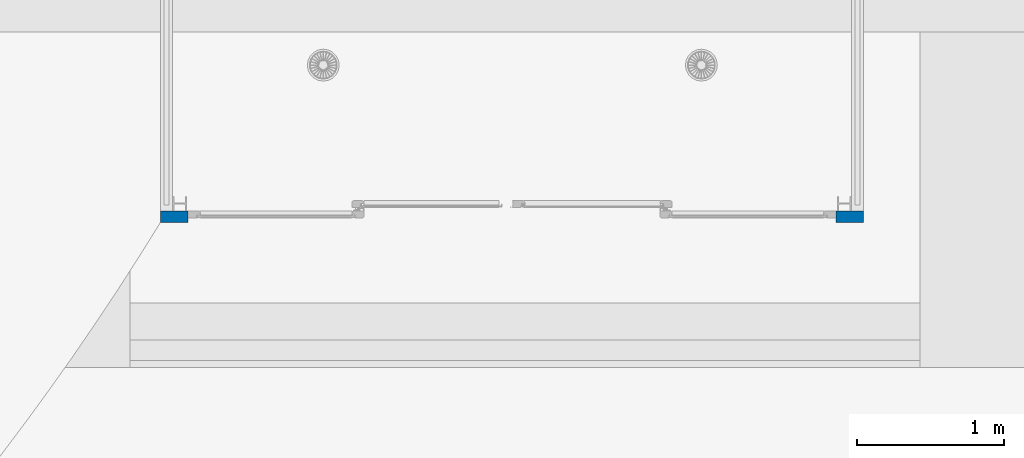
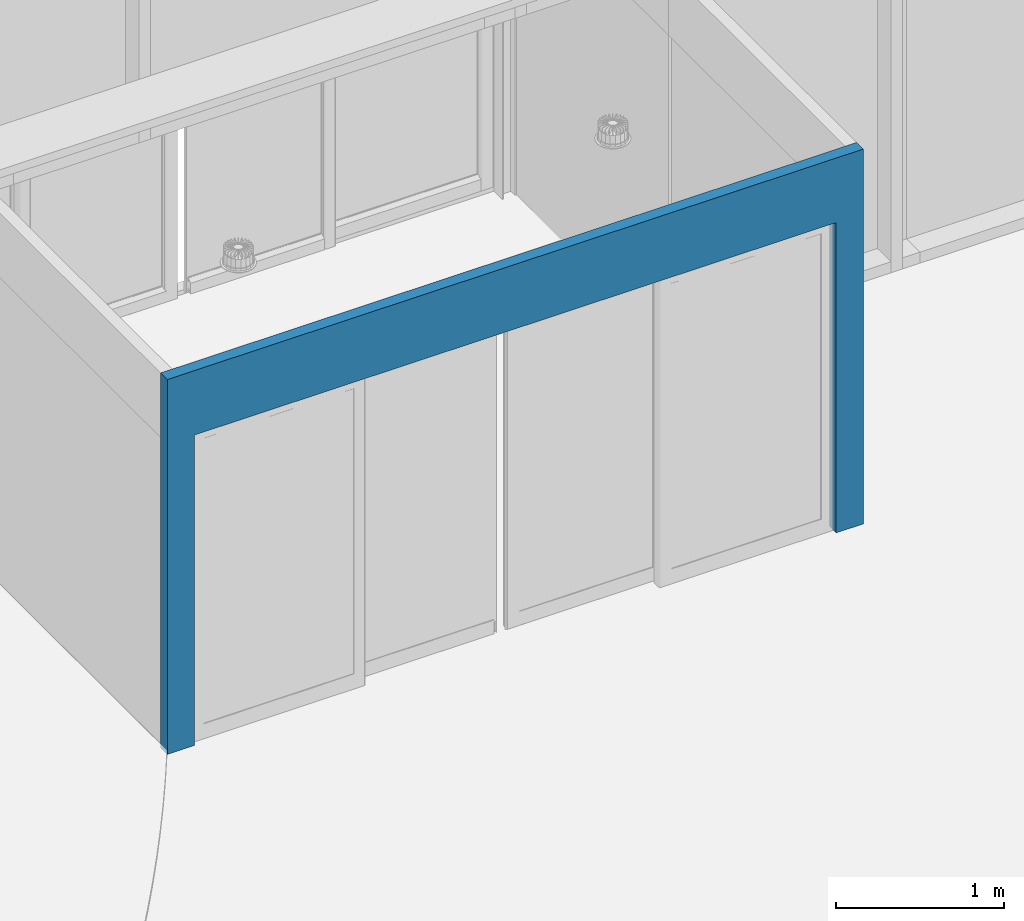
# One storey, part 209 of 302: 1 wall, 1 opening.
"""IFC2X3 building model written with IfcOpenShell, lengths in metres."""

from ifc_helpers import new_model, entity, si_unit, converted_unit, derived_unit, direction, frame, frame_2d, origin, place, context, subcontext, project, spatial, rectangle, extrude, material, layer, layer_set, layer_usage, type_object, element, save


model = new_model("IFC2X3")

# Units and contexts
model_context = context("Model", 3, precision=1e-05, world=origin(), true_north=direction((6.12303176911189e-17, 1.0)))
body_context = subcontext(model_context, "Body", "Model", "MODEL_VIEW")
ifc_project = project(units=[si_unit("LENGTHUNIT", "METRE"), si_unit("AREAUNIT", "SQUARE_METRE"), si_unit("VOLUMEUNIT", "CUBIC_METRE"), converted_unit("PLANEANGLEUNIT", "DEGREE", entity("IfcRatioMeasure", 0.0174532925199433), si_unit("PLANEANGLEUNIT", "RADIAN"), dimensions=[0, 0, 0, 0, 0, 0, 0]), si_unit("MASSUNIT", "GRAM", prefix="KILO"), derived_unit("MASSDENSITYUNIT", [(si_unit("MASSUNIT", "GRAM", prefix="KILO"), 1), (si_unit("LENGTHUNIT", "METRE"), -3)]), derived_unit("MOMENTOFINERTIAUNIT", [(si_unit("LENGTHUNIT", "METRE"), 4)]), si_unit("TIMEUNIT", "SECOND"), si_unit("FREQUENCYUNIT", "HERTZ"), si_unit("THERMODYNAMICTEMPERATUREUNIT", "DEGREE_CELSIUS"), derived_unit("THERMALTRANSMITTANCEUNIT", [(si_unit("MASSUNIT", "GRAM", prefix="KILO"), 1), (si_unit("THERMODYNAMICTEMPERATUREUNIT", "KELVIN"), -1), (si_unit("TIMEUNIT", "SECOND"), -3)]), derived_unit("VOLUMETRICFLOWRATEUNIT", [(si_unit("LENGTHUNIT", "METRE"), 3), (si_unit("TIMEUNIT", "SECOND"), -1)]), si_unit("ELECTRICCURRENTUNIT", "AMPERE"), si_unit("ELECTRICVOLTAGEUNIT", "VOLT"), si_unit("POWERUNIT", "WATT"), si_unit("FORCEUNIT", "NEWTON", prefix="KILO"), si_unit("ILLUMINANCEUNIT", "LUX"), si_unit("LUMINOUSFLUXUNIT", "LUMEN"), si_unit("LUMINOUSINTENSITYUNIT", "CANDELA"), derived_unit("USERDEFINED", [(si_unit("MASSUNIT", "GRAM", prefix="KILO"), -1), (si_unit("LENGTHUNIT", "METRE"), -2), (si_unit("TIMEUNIT", "SECOND"), 3), (si_unit("LUMINOUSFLUXUNIT", "LUMEN"), 1)]), derived_unit("LINEARVELOCITYUNIT", [(si_unit("LENGTHUNIT", "METRE"), 1), (si_unit("TIMEUNIT", "SECOND"), -1)]), si_unit("PRESSUREUNIT", "PASCAL"), derived_unit("USERDEFINED", [(si_unit("LENGTHUNIT", "METRE"), -2), (si_unit("MASSUNIT", "GRAM", prefix="KILO"), 1), (si_unit("TIMEUNIT", "SECOND"), -2)]), derived_unit("LINEARFORCEUNIT", [(si_unit("MASSUNIT", "GRAM", prefix="KILO"), 1), (si_unit("LENGTHUNIT", "METRE"), 1), (si_unit("TIMEUNIT", "SECOND"), -2), (si_unit("LENGTHUNIT", "METRE"), -1)]), derived_unit("PLANARFORCEUNIT", [(si_unit("MASSUNIT", "GRAM", prefix="KILO"), 1), (si_unit("LENGTHUNIT", "METRE"), 1), (si_unit("TIMEUNIT", "SECOND"), -2), (si_unit("LENGTHUNIT", "METRE"), -2)])], contexts=[model_context])

# Site, building, storey
site_placement = place(None, origin())
site = spatial("IfcSite", under=ifc_project, at=site_placement, Name="Default", CompositionType="ELEMENT")
building_placement = place(site_placement, origin())
building = spatial("IfcBuilding", under=site, at=building_placement, CompositionType="ELEMENT")
storey_placement = place(building_placement, frame((0.0, 0.0, -1.3)))
storey = spatial("IfcBuildingStorey", under=building, at=storey_placement, Name="00_EG", CompositionType="ELEMENT", Elevation=-1.3)

# Wall, opening
ifc_material_1 = material(Name="Prepainted_Steel-ArcelorMittal_Construction_HAIRULTRA-35-CORAL-4309-[RAL_3000]")
ifc_layer_1 = layer(ifc_material_1, 0.005)
ifc_material_2 = material(Name="ArcelorMittal-MineralWool")
ifc_layer_2 = layer(ifc_material_2, 0.075)
ifc_layer_set = layer_set([ifc_layer_1, ifc_layer_2], Name="Fassade:Sandwichpaneele 8.4 cm")
ifc_layer_usage = layer_usage(ifc_layer_set, "AXIS2", "POSITIVE", -0.04)
wall_type = type_object("IfcWallType", Name="Basiswand:Sandwichpaneele d = 8.4cm aussen", PredefinedType="STANDARD", material=ifc_layer_set)
wall_placement = place(storey_placement, frame((-234.651861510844, 43.598088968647, 1.27)))
wall = element("IfcWallStandardCase", 1, at=wall_placement, inside=storey, type_object=wall_type, material=ifc_layer_usage, Name="Basiswand:Sandwichpaneele d = 8.4cm aussen", ObjectType="Basiswand:Sandwichpaneele d = 8.4cm aussen", context=body_context, shape_type="SweptSolid", body=[
    extrude(rectangle(XDim=4.79599999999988, YDim=0.0799999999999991, at=frame_2d((2.39799999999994, 0.0), x_axis=(-1.0, 0.0))), origin(), (0.0, 0.0, 1.0), 2.73),
])
opening_placement = place(wall_placement, frame((4.60799999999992, 0.0399999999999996, 0.0)))
element("IfcOpeningElement", 2, at=opening_placement, cuts=wall, Name="1009380 ASSA ABLOY Frame 4 Panel Wall Mounted:1009380 ASSA ABLOY Frame 4 Panel Wall Mounted:1", ObjectType="Opening", context=body_context, shape_type="SweptSolid", body=[
    extrude(rectangle(XDim=2.25999999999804, YDim=4.42, at=frame_2d((1.12999999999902, 2.21), x_axis=(-1.0, 0.0))), frame((0.0, 0.0, 0.0), z_axis=(0.0, -1.0, 0.0), x_axis=(0.0, 0.0, 1.0)), (0.0, 0.0, 1.0), 0.08),
])

save(model, "model.ifc")
